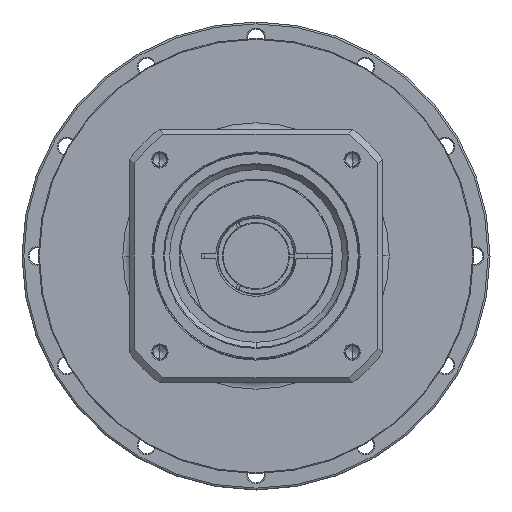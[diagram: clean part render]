
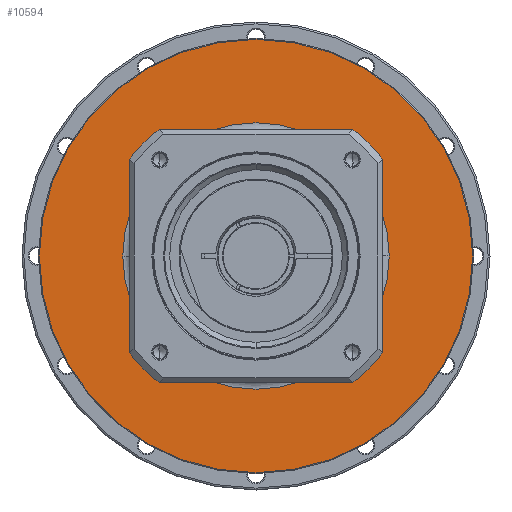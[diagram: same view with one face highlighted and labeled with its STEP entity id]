
A CAD part, left-side view. The second image highlights one B-rep face of the part: STEP entity #10594.
In plain terms, the highlighted planar face has unit normal (-1, 0, 0) as drawn and (1, 0, 0) by its records, which use the part's own axes.
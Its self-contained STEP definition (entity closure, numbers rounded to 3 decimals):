
#9625=CARTESIAN_POINT('',(-7.5,0.,0.));
#9626=DIRECTION('',(-1.,0.,0.));
#9627=DIRECTION('',(0.,-1.,0.));
#9628=AXIS2_PLACEMENT_3D('',#9625,#9626,#9627);
#9630=CARTESIAN_POINT('',(-7.5,0.,0.));
#9631=DIRECTION('',(-1.,0.,0.));
#9632=DIRECTION('',(0.,1.,0.));
#9633=AXIS2_PLACEMENT_3D('',#9630,#9631,#9632);
#9635=CARTESIAN_POINT('',(-7.5,0.,0.));
#9636=DIRECTION('',(-1.,0.,0.));
#9637=DIRECTION('',(0.,-1.,0.));
#9638=AXIS2_PLACEMENT_3D('',#9635,#9636,#9637);
#9640=CARTESIAN_POINT('',(-7.5,0.,0.));
#9641=DIRECTION('',(-1.,0.,0.));
#9642=DIRECTION('',(0.,1.,0.));
#9643=AXIS2_PLACEMENT_3D('',#9640,#9641,#9642);
#9873=CARTESIAN_POINT('',(-7.5,-115.5,0.));
#9874=CARTESIAN_POINT('',(-7.5,115.5,0.));
#9875=VERTEX_POINT('',#9873);
#9876=VERTEX_POINT('',#9874);
#9889=CARTESIAN_POINT('',(-7.5,-71.,0.));
#9890=CARTESIAN_POINT('',(-7.5,71.,0.));
#9891=VERTEX_POINT('',#9889);
#9892=VERTEX_POINT('',#9890);
#10579=CARTESIAN_POINT('',(-7.5,0.,0.));
#10580=DIRECTION('',(1.,0.,0.));
#10581=DIRECTION('',(0.,-1.,0.));
#10582=AXIS2_PLACEMENT_3D('',#10579,#10580,#10581);
#10583=PLANE('',#10582);
#10584=ORIENTED_EDGE('',*,*,#10535,.T.);
#10585=ORIENTED_EDGE('',*,*,#10520,.T.);
#10586=EDGE_LOOP('',(#10584,#10585));
#10587=FACE_OUTER_BOUND('',#10586,.F.);
#10589=ORIENTED_EDGE('',*,*,#10588,.F.);
#10591=ORIENTED_EDGE('',*,*,#10590,.F.);
#10592=EDGE_LOOP('',(#10589,#10591));
#10593=FACE_BOUND('',#10592,.F.);
#10594=ADVANCED_FACE('',(#10587,#10593),#10583,.T.);
#9629=CIRCLE('',#9628,71.);
#9634=CIRCLE('',#9633,71.);
#9639=CIRCLE('',#9638,115.5);
#9644=CIRCLE('',#9643,115.5);
#10520=EDGE_CURVE('',#9876,#9875,#9644,.T.);
#10535=EDGE_CURVE('',#9875,#9876,#9639,.T.);
#10588=EDGE_CURVE('',#9891,#9892,#9629,.T.);
#10590=EDGE_CURVE('',#9892,#9891,#9634,.T.);
